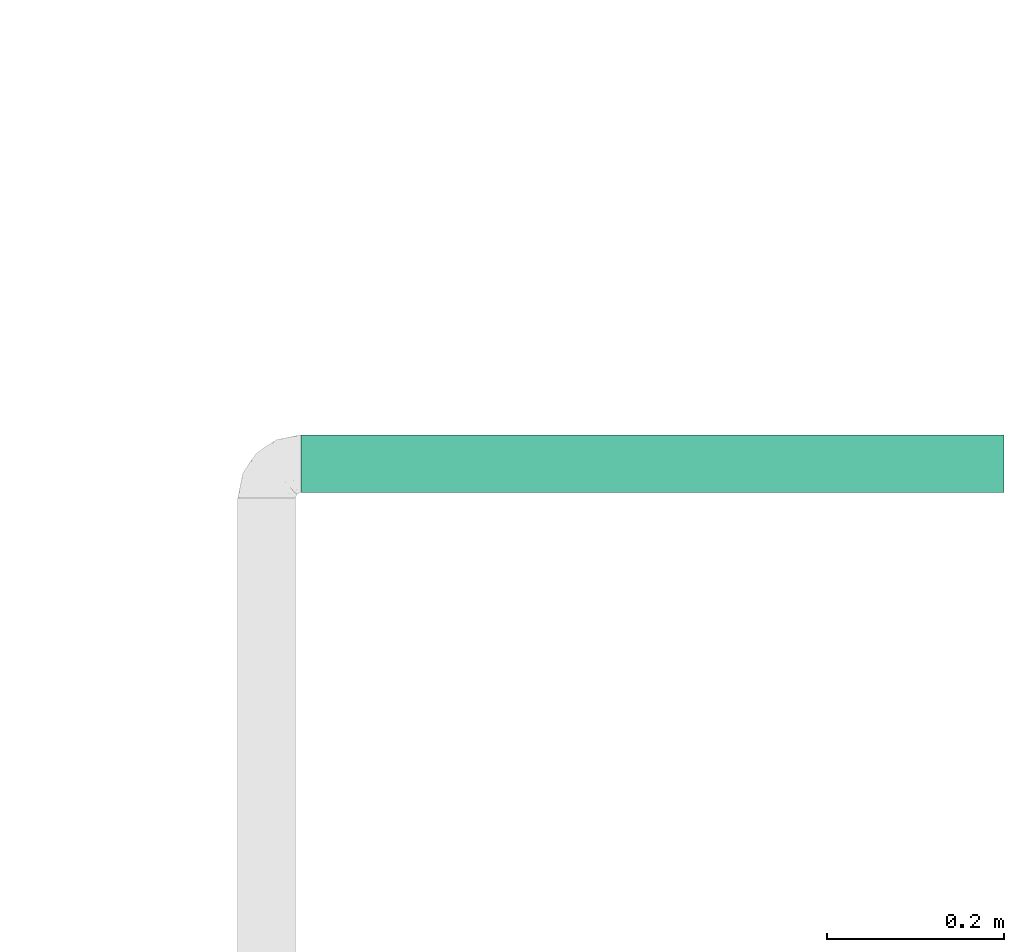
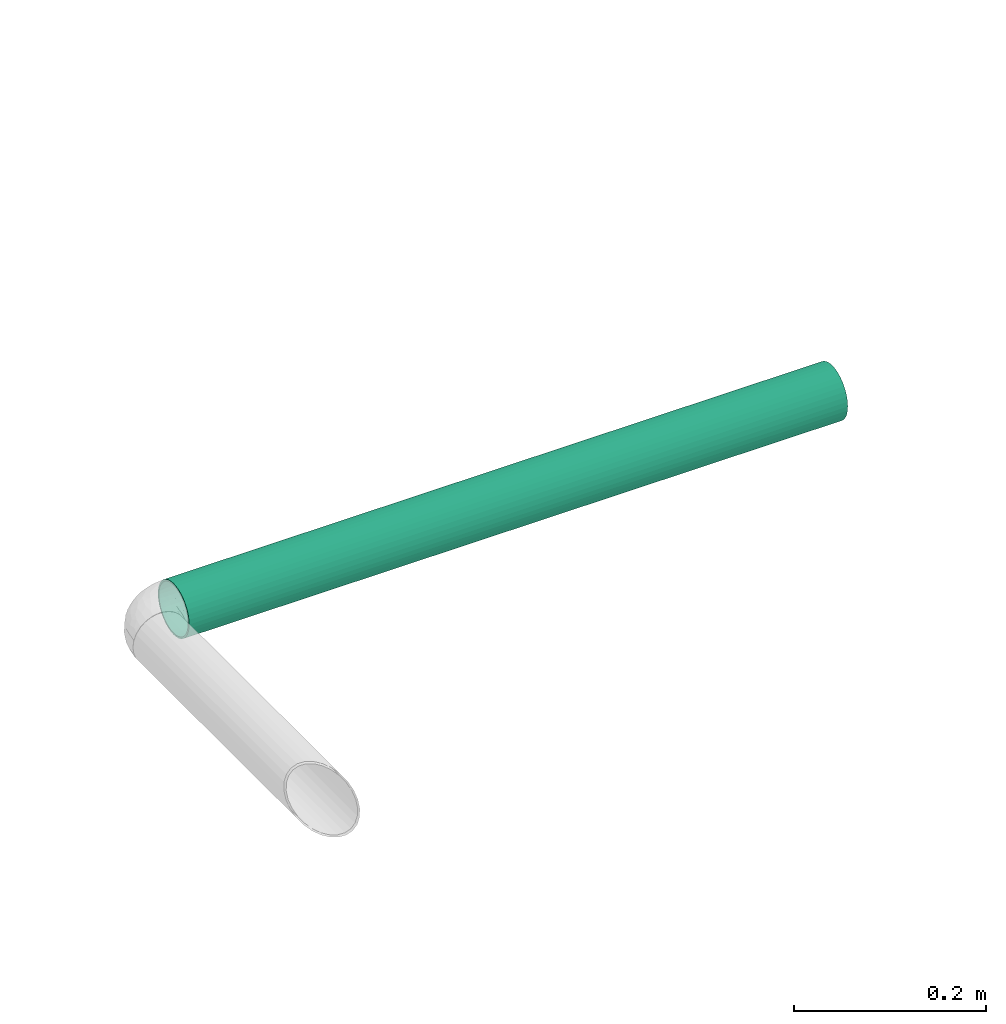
# One storey, part 62 of 63: 1 flow segment.
"""IFC2X3 building model written with IfcOpenShell, lengths in millimetres."""

from ifc_helpers import new_model, entity, si_unit, converted_unit, derived_unit, direction, frame, place, context, subcontext, project, spatial, faceted_brep, type_object, element, save


model = new_model("IFC2X3")

# Units and contexts
model_context = context("Model", 3, precision=0.01, world=frame((0.0, 4.29681676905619e-09, 0.0)), true_north=direction((4.01073788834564e-13, 1.0)))
plan_context = context("Plan", 3, precision=0.01, world=frame((0.0, 4.29681676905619e-09, 0.0)), true_north=direction((4.01073788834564e-13, 1.0)))
body_context = subcontext(model_context, "Body", "Model", "MODEL_VIEW")
ifc_project = project(units=[converted_unit("PLANEANGLEUNIT", "DEGREE", entity("IfcPositiveLengthMeasure", 0.0174532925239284), si_unit("PLANEANGLEUNIT", "RADIAN"), dimensions=[0, 0, 0, 0, 0, 0, 0]), si_unit("AREAUNIT", "SQUARE_METRE"), si_unit("LENGTHUNIT", "METRE", prefix="MILLI"), si_unit("MASSUNIT", "GRAM", prefix="KILO"), si_unit("POWERUNIT", "WATT"), si_unit("PRESSUREUNIT", "PASCAL"), si_unit("FORCEUNIT", "NEWTON", prefix="KILO"), si_unit("ELECTRICVOLTAGEUNIT", "VOLT"), si_unit("ELECTRICCURRENTUNIT", "AMPERE"), si_unit("THERMODYNAMICTEMPERATUREUNIT", "DEGREE_CELSIUS"), si_unit("TIMEUNIT", "SECOND"), si_unit("VOLUMEUNIT", "CUBIC_METRE"), derived_unit("LINEARVELOCITYUNIT", [(si_unit("LENGTHUNIT", "METRE"), 1), (si_unit("TIMEUNIT", "SECOND"), -1)]), derived_unit("VOLUMETRICFLOWRATEUNIT", [(si_unit("VOLUMEUNIT", "CUBIC_METRE"), 1), (si_unit("TIMEUNIT", "SECOND"), -1)]), derived_unit("THERMALTRANSMITTANCEUNIT", [(si_unit("POWERUNIT", "WATT"), 1), (si_unit("THERMODYNAMICTEMPERATUREUNIT", "KELVIN"), -1), (si_unit("AREAUNIT", "SQUARE_METRE"), -1)]), derived_unit("SOUNDPRESSUREUNIT", [(si_unit("PRESSUREUNIT", "PASCAL"), 1)])], contexts=[model_context, plan_context])

# Site, building, storey
site_placement = place(None, frame((0.0, -4.29681676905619e-09, 0.0), z_axis=(0.0, 0.0, 1.0), x_axis=(1.0, 0.0, 0.0)))
site = spatial("IfcSite", under=ifc_project, at=site_placement, CompositionType="ELEMENT")
building_placement = place(site_placement, frame((0.0, 4.29681676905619e-09, 0.0), z_axis=(0.0, 0.0, 1.0), x_axis=(1.0, 0.0, 0.0)))
building = spatial("IfcBuilding", under=site, at=building_placement, Name="mc-building", CompositionType="ELEMENT")
storey_placement = place(building_placement, frame((0.0, 0.0, 210900.0), z_axis=(0.0, 0.0, 1.0), x_axis=(1.0, 0.0, 0.0)))
storey = spatial("IfcBuildingStorey", under=building, at=storey_placement, Name="Nivå F", CompositionType="ELEMENT", Elevation=210900.0)

# Flow segment
duct_segment_type = type_object("IfcDuctSegmentType", Name="Støvsuger", PredefinedType="RIGIDSEGMENT")
flow_segment_placement = place(storey_placement, frame((535528.30082, 458552.24874, 4425.0), z_axis=(0.0, 0.0, 1.0), x_axis=(1.0, 0.0, 0.0)))
element("IfcFlowSegment", 1, at=flow_segment_placement, inside=storey, type_object=duct_segment_type, Name="Støvsuger", context=body_context, shape_type="Brep", body=[
    faceted_brep([(792.199180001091, 30.5, 0.0), (792.199180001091, 30.0366364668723, -5.29626941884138), (0.0, 30.0366364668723, -5.29626941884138), (0.0, 30.5, 0.0), (792.199180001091, 28.6606249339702, -10.4316143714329), (0.0, 28.6606249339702, -10.4316143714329), (792.199180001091, 26.4137748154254, -15.25), (0.0, 26.4137748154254, -15.25), (792.199180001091, 23.3643555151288, -19.6050220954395), (0.0, 23.3643555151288, -19.6050220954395), (792.199180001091, 19.6050220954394, -23.3643555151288), (0.0, 19.6050220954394, -23.3643555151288), (792.199180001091, 15.25, -26.4137748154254), (0.0, 15.25, -26.4137748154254), (792.199180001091, 10.4316143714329, -28.6606249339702), (0.0, 10.4316143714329, -28.6606249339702), (792.199180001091, 5.29626941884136, -30.0366364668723), (0.0, 5.29626941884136, -30.0366364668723), (792.199180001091, -5.60275910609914e-15, -30.5), (0.0, -5.60275910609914e-15, -30.5), (792.199180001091, -5.29626941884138, -30.0366364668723), (0.0, -5.29626941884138, -30.0366364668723), (792.199180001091, -10.4316143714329, -28.6606249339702), (0.0, -10.4316143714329, -28.6606249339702), (792.199180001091, -15.25, -26.4137748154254), (0.0, -15.25, -26.4137748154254), (792.199180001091, -19.6050220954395, -23.3643555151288), (0.0, -19.6050220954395, -23.3643555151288), (792.199180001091, -23.3643555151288, -19.6050220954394), (0.0, -23.3643555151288, -19.6050220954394), (792.199180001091, -26.4137748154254, -15.25), (0.0, -26.4137748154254, -15.25), (792.199180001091, -28.6606249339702, -10.4316143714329), (0.0, -28.6606249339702, -10.4316143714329), (792.199180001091, -30.0366364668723, -5.29626941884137), (0.0, -30.0366364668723, -5.29626941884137), (792.199180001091, -30.5, 3.73517273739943e-15), (0.0, -30.5, 3.73517273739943e-15), (792.199180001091, -30.0366364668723, 5.29626941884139), (0.0, -30.0366364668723, 5.29626941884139), (792.199180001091, -28.6606249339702, 10.4316143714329), (0.0, -28.6606249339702, 10.4316143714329), (792.199180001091, -26.4137748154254, 15.25), (0.0, -26.4137748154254, 15.25), (792.199180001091, -23.3643555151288, 19.6050220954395), (0.0, -23.3643555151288, 19.6050220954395), (792.199180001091, -19.6050220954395, 23.3643555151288), (0.0, -19.6050220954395, 23.3643555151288), (792.199180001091, -15.25, 26.4137748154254), (0.0, -15.25, 26.4137748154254), (792.199180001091, -10.4316143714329, 28.6606249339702), (0.0, -10.4316143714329, 28.6606249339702), (792.199180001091, -5.29626941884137, 30.0366364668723), (0.0, -5.29626941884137, 30.0366364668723), (792.199180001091, 1.86758636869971e-15, 30.5), (0.0, 1.86758636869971e-15, 30.5), (792.199180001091, 5.29626941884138, 30.0366364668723), (0.0, 5.29626941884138, 30.0366364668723), (792.199180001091, 10.4316143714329, 28.6606249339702), (0.0, 10.4316143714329, 28.6606249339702), (792.199180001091, 15.25, 26.4137748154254), (0.0, 15.25, 26.4137748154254), (792.199180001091, 19.6050220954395, 23.3643555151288), (0.0, 19.6050220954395, 23.3643555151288), (792.199180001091, 23.3643555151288, 19.6050220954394), (0.0, 23.3643555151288, 19.6050220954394), (792.199180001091, 26.4137748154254, 15.25), (0.0, 26.4137748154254, 15.25), (792.199180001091, 28.6606249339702, 10.4316143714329), (0.0, 28.6606249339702, 10.4316143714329), (792.199180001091, 30.0366364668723, 5.29626941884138), (0.0, 30.0366364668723, 5.29626941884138), (792.199180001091, 32.0062519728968, -5.64356577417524), (792.199180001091, 32.5, 0.0), (0.0, 32.5, 0.0), (0.0, 32.0062519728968, -5.64356577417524), (792.199180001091, 32.0062519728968, 5.64356577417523), (0.0, 32.0062519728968, 5.64356577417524), (792.199180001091, 30.540010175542, 11.1156546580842), (0.0, 30.540010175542, 11.1156546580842), (792.199180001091, 28.1458256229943, 16.25), (0.0, 28.1458256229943, 16.25), (792.199180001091, 24.8964444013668, 20.8905973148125), (0.0, 24.8964444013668, 20.8905973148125), (792.199180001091, 20.8905973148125, 24.8964444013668), (0.0, 20.8905973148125, 24.8964444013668), (792.199180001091, 16.25, 28.1458256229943), (0.0, 16.25, 28.1458256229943), (792.199180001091, 11.1156546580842, 30.540010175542), (0.0, 11.1156546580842, 30.540010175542), (792.199180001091, 5.64356577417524, 32.0062519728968), (0.0, 5.64356577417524, 32.0062519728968), (792.199180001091, 1.99005104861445e-15, 32.5), (0.0, 1.99005104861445e-15, 32.5), (792.199180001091, -5.64356577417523, 32.0062519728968), (0.0, -5.64356577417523, 32.0062519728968), (792.199180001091, -11.1156546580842, 30.540010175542), (0.0, -11.1156546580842, 30.540010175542), (792.199180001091, -16.25, 28.1458256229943), (0.0, -16.25, 28.1458256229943), (792.199180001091, -20.8905973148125, 24.8964444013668), (0.0, -20.8905973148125, 24.8964444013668), (792.199180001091, -24.8964444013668, 20.8905973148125), (0.0, -24.8964444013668, 20.8905973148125), (792.199180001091, -28.1458256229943, 16.25), (0.0, -28.1458256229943, 16.25), (792.199180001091, -30.540010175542, 11.1156546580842), (0.0, -30.540010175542, 11.1156546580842), (792.199180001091, -32.0062519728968, 5.64356577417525), (0.0, -32.0062519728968, 5.64356577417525), (792.199180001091, -32.5, 3.9801020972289e-15), (0.0, -32.5, 3.9801020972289e-15), (792.199180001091, -32.0062519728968, -5.64356577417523), (0.0, -32.0062519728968, -5.64356577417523), (792.199180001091, -30.540010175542, -11.1156546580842), (0.0, -30.540010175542, -11.1156546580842), (792.199180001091, -28.1458256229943, -16.25), (0.0, -28.1458256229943, -16.25), (792.199180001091, -24.8964444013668, -20.8905973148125), (0.0, -24.8964444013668, -20.8905973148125), (792.199180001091, -20.8905973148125, -24.8964444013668), (0.0, -20.8905973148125, -24.8964444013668), (792.199180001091, -16.25, -28.1458256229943), (0.0, -16.25, -28.1458256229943), (792.199180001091, -11.1156546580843, -30.540010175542), (0.0, -11.1156546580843, -30.540010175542), (792.199180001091, -5.64356577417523, -32.0062519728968), (0.0, -5.64356577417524, -32.0062519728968), (792.199180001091, -5.97015314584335e-15, -32.5), (0.0, -5.97015314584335e-15, -32.5), (792.199180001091, 5.64356577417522, -32.0062519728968), (0.0, 5.64356577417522, -32.0062519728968), (792.199180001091, 11.1156546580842, -30.540010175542), (0.0, 11.1156546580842, -30.540010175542), (792.199180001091, 16.25, -28.1458256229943), (0.0, 16.25, -28.1458256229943), (792.199180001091, 20.8905973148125, -24.8964444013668), (0.0, 20.8905973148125, -24.8964444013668), (792.199180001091, 24.8964444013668, -20.8905973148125), (0.0, 24.8964444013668, -20.8905973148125), (792.199180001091, 28.1458256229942, -16.25), (0.0, 28.1458256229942, -16.25), (792.199180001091, 30.540010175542, -11.1156546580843), (0.0, 30.540010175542, -11.1156546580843)], [[[0, 1, 2, 3]], [[1, 4, 5, 2]], [[4, 6, 7, 5]], [[6, 8, 9, 7]], [[8, 10, 11, 9]], [[10, 12, 13, 11]], [[12, 14, 15, 13]], [[14, 16, 17, 15]], [[16, 18, 19, 17]], [[18, 20, 21, 19]], [[20, 22, 23, 21]], [[22, 24, 25, 23]], [[24, 26, 27, 25]], [[26, 28, 29, 27]], [[28, 30, 31, 29]], [[30, 32, 33, 31]], [[32, 34, 35, 33]], [[34, 36, 37, 35]], [[36, 38, 39, 37]], [[38, 40, 41, 39]], [[40, 42, 43, 41]], [[42, 44, 45, 43]], [[44, 46, 47, 45]], [[46, 48, 49, 47]], [[48, 50, 51, 49]], [[50, 52, 53, 51]], [[52, 54, 55, 53]], [[54, 56, 57, 55]], [[56, 58, 59, 57]], [[58, 60, 61, 59]], [[60, 62, 63, 61]], [[62, 64, 65, 63]], [[64, 66, 67, 65]], [[66, 68, 69, 67]], [[68, 70, 71, 69]], [[70, 0, 3, 71]], [[72, 73, 74, 75]], [[73, 76, 77, 74]], [[76, 78, 79, 77]], [[78, 80, 81, 79]], [[80, 82, 83, 81]], [[82, 84, 85, 83]], [[84, 86, 87, 85]], [[86, 88, 89, 87]], [[88, 90, 91, 89]], [[90, 92, 93, 91]], [[92, 94, 95, 93]], [[94, 96, 97, 95]], [[96, 98, 99, 97]], [[98, 100, 101, 99]], [[100, 102, 103, 101]], [[102, 104, 105, 103]], [[104, 106, 107, 105]], [[106, 108, 109, 107]], [[108, 110, 111, 109]], [[110, 112, 113, 111]], [[112, 114, 115, 113]], [[114, 116, 117, 115]], [[116, 118, 119, 117]], [[118, 120, 121, 119]], [[120, 122, 123, 121]], [[122, 124, 125, 123]], [[124, 126, 127, 125]], [[126, 128, 129, 127]], [[128, 130, 131, 129]], [[130, 132, 133, 131]], [[132, 134, 135, 133]], [[134, 136, 137, 135]], [[136, 138, 139, 137]], [[138, 140, 141, 139]], [[140, 142, 143, 141]], [[142, 72, 75, 143]], [[75, 74, 77, 79, 81, 83, 85, 87, 89, 91, 93, 95, 97, 99, 101, 103, 105, 107, 109, 111, 113, 115, 117, 119, 121, 123, 125, 127, 129, 131, 133, 135, 137, 139, 141, 143], [3, 2, 5, 7, 9, 11, 13, 15, 17, 19, 21, 23, 25, 27, 29, 31, 33, 35, 37, 39, 41, 43, 45, 47, 49, 51, 53, 55, 57, 59, 61, 63, 65, 67, 69, 71]], [[142, 140, 138, 136, 134, 132, 130, 128, 126, 124, 122, 120, 118, 116, 114, 112, 110, 108, 106, 104, 102, 100, 98, 96, 94, 92, 90, 88, 86, 84, 82, 80, 78, 76, 73, 72], [70, 68, 66, 64, 62, 60, 58, 56, 54, 52, 50, 48, 46, 44, 42, 40, 38, 36, 34, 32, 30, 28, 26, 24, 22, 20, 18, 16, 14, 12, 10, 8, 6, 4, 1, 0]]], orient=[[False], [False], [False], [False], [False], [False], [False], [False], [False], [False], [False], [False], [False], [False], [False], [False], [False], [False], [False], [False], [False], [False], [False], [False], [False], [False], [False], [False], [False], [False], [False], [False], [False], [False], [False], [False], [False], [False], [False], [False], [False], [False], [False], [False], [False], [False], [False], [False], [False], [False], [False], [False], [False], [False], [False], [False], [False], [False], [False], [False], [False], [False], [False], [False], [False], [False], [False], [False], [False], [False], [False], [False], [False, False], [False, False]]),
])

save(model, "model.ifc")
